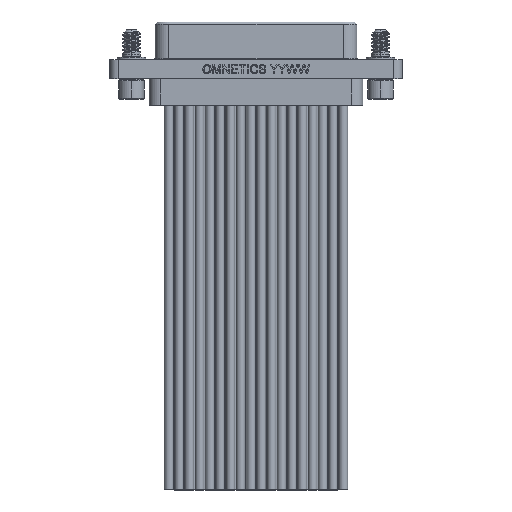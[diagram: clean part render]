
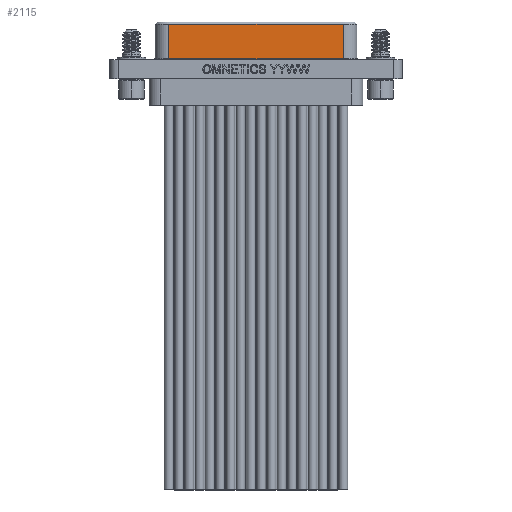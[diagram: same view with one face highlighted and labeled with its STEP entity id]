
A CAD part, front view. The second image highlights one B-rep face of the part: STEP entity #2115.
In plain terms, the highlighted planar face has unit normal (0, -1, 0).
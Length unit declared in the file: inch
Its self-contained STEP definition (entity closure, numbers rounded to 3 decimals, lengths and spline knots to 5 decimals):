
#1532 = CARTESIAN_POINT ( 'NONE',  ( -0.425, -0.114, 0.047 ) ) ;
#2011 = DIRECTION ( 'NONE',  ( -1., 0., 0. ) ) ;
#2115 = ADVANCED_FACE ( 'NONE', ( #47742 ), #6428, .F. ) ;
#4993 = VERTEX_POINT ( 'NONE', #36322 ) ;
#6428 = PLANE ( 'NONE',  #52736 ) ;
#6749 = DIRECTION ( 'NONE',  ( 1., 0., 0. ) ) ;
#8271 = CARTESIAN_POINT ( 'NONE',  ( 0.425, -0.114, 0.215 ) ) ;
#10334 = DIRECTION ( 'NONE',  ( 0., 1., 0. ) ) ;
#11131 = LINE ( 'NONE', #38318, #18893 ) ;
#11633 = VERTEX_POINT ( 'NONE', #8271 ) ;
#12466 = VERTEX_POINT ( 'NONE', #1532 ) ;
#14709 = CARTESIAN_POINT ( 'NONE',  ( 0.425, -0.114, 0.225 ) ) ;
#18893 = VECTOR ( 'NONE', #29569, 39.37008 ) ;
#20309 = ORIENTED_EDGE ( 'NONE', *, *, #55998, .F. ) ;
#24248 = EDGE_CURVE ( 'NONE', #54402, #12466, #11131, .T. ) ;
#27724 = VECTOR ( 'NONE', #6749, 39.37008 ) ;
#28784 = DIRECTION ( 'NONE',  ( -1., 0., 0. ) ) ;
#28939 = ORIENTED_EDGE ( 'NONE', *, *, #37875, .T. ) ;
#29461 = VECTOR ( 'NONE', #41288, 39.37008 ) ;
#29569 = DIRECTION ( 'NONE',  ( 0., 0., -1. ) ) ;
#35242 = ORIENTED_EDGE ( 'NONE', *, *, #37823, .T. ) ;
#36322 = CARTESIAN_POINT ( 'NONE',  ( 0.425, -0.114, 0.047 ) ) ;
#37242 = CARTESIAN_POINT ( 'NONE',  ( -0.425, -0.114, 0.215 ) ) ;
#37347 = LINE ( 'NONE', #14709, #29461 ) ;
#37807 = CARTESIAN_POINT ( 'NONE',  ( -0.6725, -0.114, 0.215 ) ) ;
#37823 = EDGE_CURVE ( 'NONE', #12466, #4993, #55915, .T. ) ;
#37875 = EDGE_CURVE ( 'NONE', #11633, #54402, #43228, .T. ) ;
#38318 = CARTESIAN_POINT ( 'NONE',  ( -0.425, -0.114, 0.225 ) ) ;
#38423 = CARTESIAN_POINT ( 'NONE',  ( 0.425, -0.114, 0.047 ) ) ;
#41288 = DIRECTION ( 'NONE',  ( 0., 0., -1. ) ) ;
#43228 = LINE ( 'NONE', #37807, #44026 ) ;
#44026 = VECTOR ( 'NONE', #2011, 39.37008 ) ;
#47742 = FACE_OUTER_BOUND ( 'NONE', #54181, .T. ) ;
#52736 = AXIS2_PLACEMENT_3D ( 'NONE', #56196, #10334, #28784 ) ;
#54181 = EDGE_LOOP ( 'NONE', ( #54621, #35242, #20309, #28939 ) ) ;
#54402 = VERTEX_POINT ( 'NONE', #37242 ) ;
#54621 = ORIENTED_EDGE ( 'NONE', *, *, #24248, .T. ) ;
#55915 = LINE ( 'NONE', #38423, #27724 ) ;
#55998 = EDGE_CURVE ( 'NONE', #11633, #4993, #37347, .T. ) ;
#56196 = CARTESIAN_POINT ( 'NONE',  ( -0.6725, -0.114, 0.225 ) ) ;
